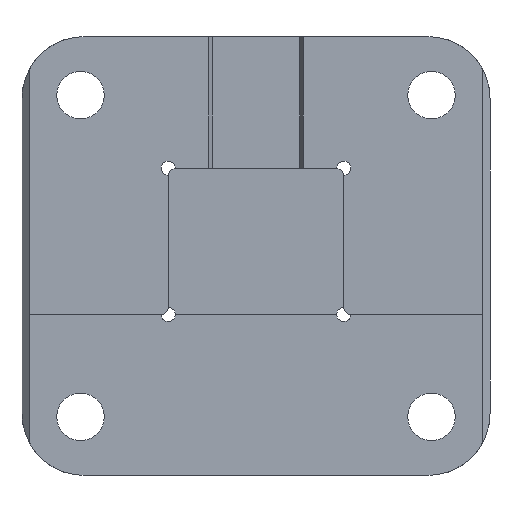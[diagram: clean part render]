
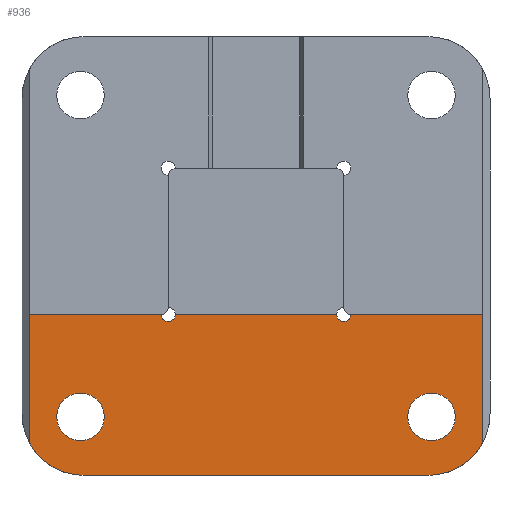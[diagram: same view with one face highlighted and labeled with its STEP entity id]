
A CAD part, front view. The second image highlights one B-rep face of the part: STEP entity #936.
In plain terms, the highlighted planar face has unit normal (0, -1, 0).
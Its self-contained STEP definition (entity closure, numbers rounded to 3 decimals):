
#38=PLANE('',#1026);
#71=CIRCLE('',#1012,1.524);
#77=CIRCLE('',#1024,1.524);
#79=CIRCLE('',#1027,5.156);
#80=CIRCLE('',#1028,5.156);
#81=CIRCLE('',#1029,13.487);
#82=CIRCLE('',#1030,13.487);
#143=ORIENTED_EDGE('',*,*,#397,.F.);
#144=ORIENTED_EDGE('',*,*,#398,.F.);
#145=ORIENTED_EDGE('',*,*,#399,.F.);
#146=ORIENTED_EDGE('',*,*,#400,.T.);
#147=ORIENTED_EDGE('',*,*,#401,.F.);
#148=ORIENTED_EDGE('',*,*,#394,.T.);
#149=ORIENTED_EDGE('',*,*,#402,.F.);
#150=ORIENTED_EDGE('',*,*,#376,.T.);
#151=ORIENTED_EDGE('',*,*,#403,.F.);
#152=ORIENTED_EDGE('',*,*,#404,.F.);
#153=ORIENTED_EDGE('',*,*,#405,.F.);
#154=ORIENTED_EDGE('',*,*,#406,.F.);
#376=EDGE_CURVE('',#501,#506,#71,.T.);
#394=EDGE_CURVE('',#519,#518,#77,.T.);
#397=EDGE_CURVE('',#521,#521,#79,.T.);
#398=EDGE_CURVE('',#522,#522,#80,.T.);
#399=EDGE_CURVE('',#523,#524,#81,.T.);
#400=EDGE_CURVE('',#523,#525,#609,.T.);
#401=EDGE_CURVE('',#519,#525,#610,.T.);
#402=EDGE_CURVE('',#501,#518,#611,.T.);
#403=EDGE_CURVE('',#526,#506,#612,.T.);
#404=EDGE_CURVE('',#527,#526,#613,.T.);
#405=EDGE_CURVE('',#528,#527,#82,.T.);
#406=EDGE_CURVE('',#524,#528,#614,.T.);
#501=VERTEX_POINT('',#1404);
#506=VERTEX_POINT('',#1413);
#518=VERTEX_POINT('',#1449);
#519=VERTEX_POINT('',#1451);
#521=VERTEX_POINT('',#1457);
#522=VERTEX_POINT('',#1459);
#523=VERTEX_POINT('',#1461);
#524=VERTEX_POINT('',#1462);
#525=VERTEX_POINT('',#1464);
#526=VERTEX_POINT('',#1468);
#527=VERTEX_POINT('',#1470);
#528=VERTEX_POINT('',#1472);
#609=LINE('',#1463,#693);
#610=LINE('',#1465,#694);
#611=LINE('',#1466,#695);
#612=LINE('',#1467,#696);
#613=LINE('',#1469,#697);
#614=LINE('',#1473,#698);
#693=VECTOR('',#1171,1000.);
#694=VECTOR('',#1172,1000.);
#695=VECTOR('',#1173,1000.);
#696=VECTOR('',#1174,1000.);
#697=VECTOR('',#1175,1000.);
#698=VECTOR('',#1178,1000.);
#768=EDGE_LOOP('',(#143));
#769=EDGE_LOOP('',(#144));
#770=EDGE_LOOP('',(#145,#146,#147,#148,#149,#150,#151,#152,#153,#154));
#842=FACE_BOUND('',#768,.T.);
#843=FACE_BOUND('',#769,.T.);
#844=FACE_BOUND('',#770,.T.);
#936=ADVANCED_FACE('',(#842,#843,#844),#38,.F.);
#1012=AXIS2_PLACEMENT_3D('',#1414,#1122,#1123);
#1024=AXIS2_PLACEMENT_3D('',#1450,#1158,#1159);
#1026=AXIS2_PLACEMENT_3D('',#1455,#1163,#1164);
#1027=AXIS2_PLACEMENT_3D('',#1456,#1165,#1166);
#1028=AXIS2_PLACEMENT_3D('',#1458,#1167,#1168);
#1029=AXIS2_PLACEMENT_3D('',#1460,#1169,#1170);
#1030=AXIS2_PLACEMENT_3D('',#1471,#1176,#1177);
#1122=DIRECTION('',(0.,1.,0.));
#1123=DIRECTION('',(1.,0.,0.));
#1158=DIRECTION('',(0.,1.,0.));
#1159=DIRECTION('',(1.,0.,0.));
#1163=DIRECTION('',(0.,1.,0.));
#1164=DIRECTION('',(0.,0.,1.));
#1165=DIRECTION('',(0.,-1.,0.));
#1166=DIRECTION('',(0.,0.,-1.));
#1167=DIRECTION('',(0.,-1.,0.));
#1168=DIRECTION('',(0.,0.,-1.));
#1169=DIRECTION('',(0.,1.,0.));
#1170=DIRECTION('',(1.,0.,0.));
#1171=DIRECTION('',(0.,0.,1.));
#1172=DIRECTION('',(1.,0.,0.));
#1173=DIRECTION('',(1.,0.,0.));
#1174=DIRECTION('',(1.,0.,0.));
#1175=DIRECTION('',(0.,0.,1.));
#1176=DIRECTION('',(0.,1.,0.));
#1177=DIRECTION('',(1.,0.,0.));
#1178=DIRECTION('',(-1.,0.,0.));
#1404=CARTESIAN_POINT('',(-17.526,0.,0.));
#1413=CARTESIAN_POINT('',(-20.574,0.,0.));
#1414=CARTESIAN_POINT('',(-19.05,0.,0.));
#1449=CARTESIAN_POINT('',(17.526,0.,0.));
#1450=CARTESIAN_POINT('',(19.05,0.,0.));
#1451=CARTESIAN_POINT('',(20.574,0.,0.));
#1455=CARTESIAN_POINT('',(-37.313,0.,-21.438));
#1456=CARTESIAN_POINT('',(-38.1,0.,-22.225));
#1457=CARTESIAN_POINT('',(-38.1,0.,-27.381));
#1458=CARTESIAN_POINT('',(38.1,0.,-22.225));
#1459=CARTESIAN_POINT('',(38.1,0.,-27.381));
#1460=CARTESIAN_POINT('',(37.313,0.,-21.438));
#1461=CARTESIAN_POINT('',(49.276,0.,-27.666));
#1462=CARTESIAN_POINT('',(37.313,0.,-34.925));
#1463=CARTESIAN_POINT('',(49.276,0.,-34.925));
#1464=CARTESIAN_POINT('',(49.276,0.,0.));
#1465=CARTESIAN_POINT('',(20.574,0.,0.));
#1466=CARTESIAN_POINT('',(-37.313,0.,0.));
#1467=CARTESIAN_POINT('',(-50.8,0.,0.));
#1468=CARTESIAN_POINT('',(-49.276,0.,0.));
#1469=CARTESIAN_POINT('',(-49.276,0.,-34.925));
#1470=CARTESIAN_POINT('',(-49.276,0.,-27.666));
#1471=CARTESIAN_POINT('',(-37.313,0.,-21.438));
#1472=CARTESIAN_POINT('',(-37.313,0.,-34.925));
#1473=CARTESIAN_POINT('',(37.313,0.,-34.925));
